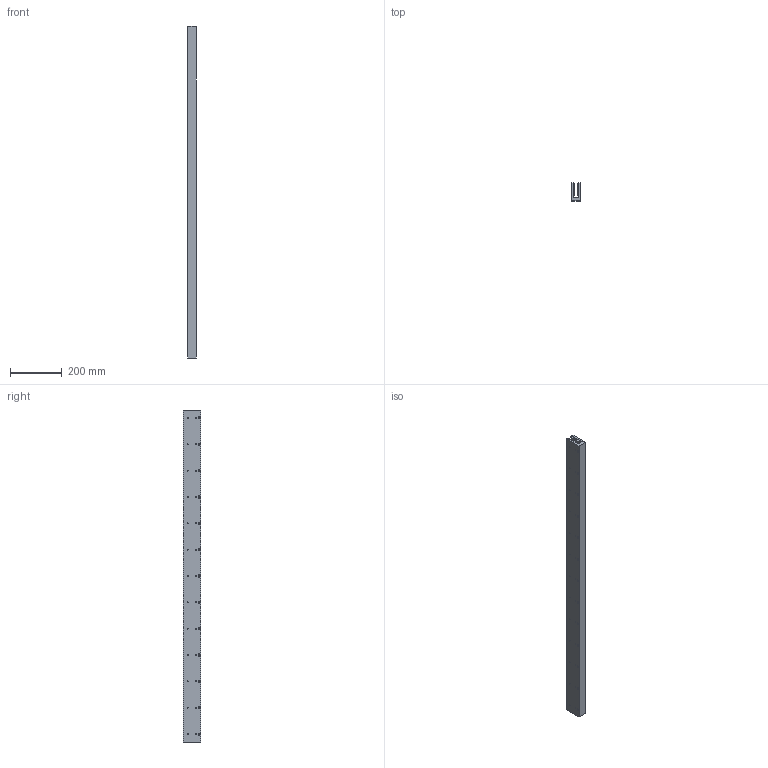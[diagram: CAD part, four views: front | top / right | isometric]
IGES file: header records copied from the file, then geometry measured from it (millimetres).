
Global section: file name: No Iges File Name specified; native system: Autodesk Inventor 2009; preprocessor: AutoDesk Inventor Iges Exporter R2009; author: je17857; date: 20091116.111706; units: inch
Bounding box: 34.29 x 67.31 x 1280.16 mm (x, y, z)
Volume: 1913446.6 mm3; surface area: 481796.8 mm2
Topology: 1 solids, 1 shells, 654 faces, 1578 edges, 1052 vertices
Faces by surface type: plane 446, bspline 208
